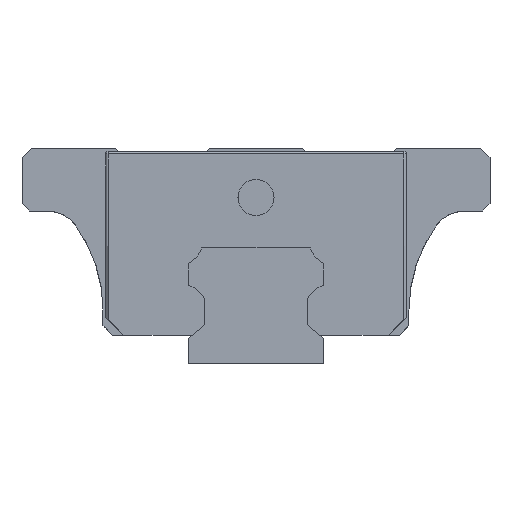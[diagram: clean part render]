
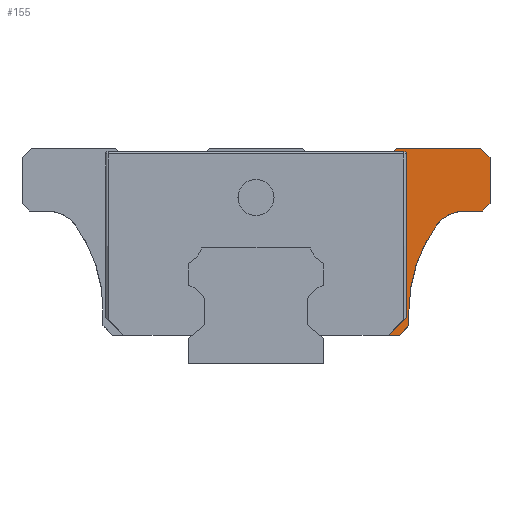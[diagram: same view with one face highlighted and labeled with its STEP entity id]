
A CAD part, left-side view. The second image highlights one B-rep face of the part: STEP entity #155.
In plain terms, the highlighted planar face has unit normal (-1, 0, 0).
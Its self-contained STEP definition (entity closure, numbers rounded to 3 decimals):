
#11 = VECTOR ( 'NONE', #1976, 1000. ) ;
#104 = CARTESIAN_POINT ( 'NONE',  ( -19.75, -17., 6. ) ) ;
#132 = CARTESIAN_POINT ( 'NONE',  ( -19.75, -18.027, 23.595 ) ) ;
#138 = ORIENTED_EDGE ( 'NONE', *, *, #4368, .T. ) ;
#155 = ADVANCED_FACE ( 'NONE', ( #5437 ), #4287, .T. ) ;
#156 = AXIS2_PLACEMENT_3D ( 'NONE', #4454, #1313, #3224 ) ;
#305 = AXIS2_PLACEMENT_3D ( 'NONE', #1905, #1289, #4227 ) ;
#500 = EDGE_CURVE ( 'NONE', #6266, #3368, #8024, .T. ) ;
#609 = ORIENTED_EDGE ( 'NONE', *, *, #7323, .T. ) ;
#718 = VERTEX_POINT ( 'NONE', #2083 ) ;
#742 = CARTESIAN_POINT ( 'NONE',  ( -19.75, -15.26, 23.595 ) ) ;
#753 = DIRECTION ( 'NONE',  ( 0., -0.707, 0.707 ) ) ;
#840 = CARTESIAN_POINT ( 'NONE',  ( -19.75, -26., 17.8 ) ) ;
#962 = VECTOR ( 'NONE', #3244, 1000. ) ;
#1152 = VECTOR ( 'NONE', #3444, 1000. ) ;
#1180 = DIRECTION ( 'NONE',  ( 1., 0., 0. ) ) ;
#1181 = DIRECTION ( 'NONE',  ( 0., -1., 0. ) ) ;
#1243 = EDGE_CURVE ( 'NONE', #7981, #3683, #2284, .T. ) ;
#1289 = DIRECTION ( 'NONE',  ( 1., 0., 0. ) ) ;
#1297 = ORIENTED_EDGE ( 'NONE', *, *, #6461, .T. ) ;
#1313 = DIRECTION ( 'NONE',  ( 1., 0., 0. ) ) ;
#1371 = CARTESIAN_POINT ( 'NONE',  ( -19.75, -16.702, 5.2 ) ) ;
#1414 = ORIENTED_EDGE ( 'NONE', *, *, #1839, .F. ) ;
#1511 = EDGE_CURVE ( 'NONE', #6741, #7244, #7002, .T. ) ;
#1678 = VERTEX_POINT ( 'NONE', #1826 ) ;
#1826 = CARTESIAN_POINT ( 'NONE',  ( -19.75, -15.6, 24. ) ) ;
#1839 = EDGE_CURVE ( 'NONE', #6266, #718, #2597, .T. ) ;
#1905 = CARTESIAN_POINT ( 'NONE',  ( -19.75, -33., 6. ) ) ;
#1906 = LINE ( 'NONE', #4972, #5196 ) ;
#1976 = DIRECTION ( 'NONE',  ( 0., 1., 0. ) ) ;
#1994 = CARTESIAN_POINT ( 'NONE',  ( -19.75, -23.253, 17. ) ) ;
#2083 = CARTESIAN_POINT ( 'NONE',  ( -19.75, -16.702, 5.206 ) ) ;
#2136 = VERTEX_POINT ( 'NONE', #6366 ) ;
#2168 = CARTESIAN_POINT ( 'NONE',  ( -19.75, -26., 17. ) ) ;
#2215 = VERTEX_POINT ( 'NONE', #2905 ) ;
#2265 = ORIENTED_EDGE ( 'NONE', *, *, #5849, .T. ) ;
#2280 = DIRECTION ( 'NONE',  ( 0., 0., 1. ) ) ;
#2284 = LINE ( 'NONE', #4205, #6530 ) ;
#2325 = AXIS2_PLACEMENT_3D ( 'NONE', #5564, #1180, #4277 ) ;
#2597 = LINE ( 'NONE', #5834, #4035 ) ;
#2628 = LINE ( 'NONE', #5166, #4585 ) ;
#2647 = VERTEX_POINT ( 'NONE', #742 ) ;
#2653 = DIRECTION ( 'NONE',  ( 0., -1., 0. ) ) ;
#2681 = EDGE_CURVE ( 'NONE', #2136, #2647, #5672, .T. ) ;
#2774 = ORIENTED_EDGE ( 'NONE', *, *, #1243, .T. ) ;
#2905 = CARTESIAN_POINT ( 'NONE',  ( -19.75, -17., 4.25 ) ) ;
#2966 = VECTOR ( 'NONE', #3942, 1000. ) ;
#3099 = VECTOR ( 'NONE', #4622, 1000. ) ;
#3135 = ORIENTED_EDGE ( 'NONE', *, *, #3843, .T. ) ;
#3224 = DIRECTION ( 'NONE',  ( 0., 0., 1. ) ) ;
#3244 = DIRECTION ( 'NONE',  ( 0., 0., 1. ) ) ;
#3266 = ORIENTED_EDGE ( 'NONE', *, *, #6046, .F. ) ;
#3284 = LINE ( 'NONE', #1371, #962 ) ;
#3368 = VERTEX_POINT ( 'NONE', #7397 ) ;
#3444 = DIRECTION ( 'NONE',  ( 0., -0.707, 0.707 ) ) ;
#3557 = CARTESIAN_POINT ( 'NONE',  ( -19.75, -25.2, 17. ) ) ;
#3562 = VERTEX_POINT ( 'NONE', #840 ) ;
#3683 = VERTEX_POINT ( 'NONE', #7917 ) ;
#3843 = EDGE_CURVE ( 'NONE', #7244, #3562, #2628, .T. ) ;
#3942 = DIRECTION ( 'NONE',  ( 0., 0., 1. ) ) ;
#4035 = VECTOR ( 'NONE', #753, 1000. ) ;
#4140 = ORIENTED_EDGE ( 'NONE', *, *, #7115, .T. ) ;
#4142 = CARTESIAN_POINT ( 'NONE',  ( -19.75, -16.702, 23.335 ) ) ;
#4182 = EDGE_CURVE ( 'NONE', #5450, #6741, #7216, .T. ) ;
#4205 = CARTESIAN_POINT ( 'NONE',  ( -19.75, -24.95, 24. ) ) ;
#4227 = DIRECTION ( 'NONE',  ( 0., 0., 1. ) ) ;
#4236 = DIRECTION ( 'NONE',  ( 0., 1., 0. ) ) ;
#4277 = DIRECTION ( 'NONE',  ( 0., 0., 1. ) ) ;
#4287 = PLANE ( 'NONE',  #7135 ) ;
#4337 = VECTOR ( 'NONE', #4236, 1000. ) ;
#4368 = EDGE_CURVE ( 'NONE', #3683, #1678, #4978, .T. ) ;
#4454 = CARTESIAN_POINT ( 'NONE',  ( -19.75, -23.253, 13. ) ) ;
#4585 = VECTOR ( 'NONE', #5826, 1000. ) ;
#4622 = DIRECTION ( 'NONE',  ( 0., 0., 1. ) ) ;
#4849 = CARTESIAN_POINT ( 'NONE',  ( -19.75, -26., 22.95 ) ) ;
#4972 = CARTESIAN_POINT ( 'NONE',  ( -19.75, -15.6, 24. ) ) ;
#4978 = LINE ( 'NONE', #5562, #4337 ) ;
#5155 = ORIENTED_EDGE ( 'NONE', *, *, #8086, .T. ) ;
#5166 = CARTESIAN_POINT ( 'NONE',  ( -19.75, -26., 17.8 ) ) ;
#5196 = VECTOR ( 'NONE', #6780, 1000. ) ;
#5349 = VECTOR ( 'NONE', #2653, 1000. ) ;
#5408 = CIRCLE ( 'NONE', #305, 16. ) ;
#5437 = FACE_OUTER_BOUND ( 'NONE', #7218, .T. ) ;
#5450 = VERTEX_POINT ( 'NONE', #6747 ) ;
#5562 = CARTESIAN_POINT ( 'NONE',  ( -19.75, -26., 24. ) ) ;
#5564 = CARTESIAN_POINT ( 'NONE',  ( -19.75, -16.442, 23.335 ) ) ;
#5577 = VECTOR ( 'NONE', #1181, 1000. ) ;
#5672 = LINE ( 'NONE', #132, #11 ) ;
#5826 = DIRECTION ( 'NONE',  ( 0., -0.707, 0.707 ) ) ;
#5834 = CARTESIAN_POINT ( 'NONE',  ( -19.75, -14.696, 3.2 ) ) ;
#5849 = EDGE_CURVE ( 'NONE', #7585, #5450, #5408, .T. ) ;
#5903 = ORIENTED_EDGE ( 'NONE', *, *, #1511, .T. ) ;
#6002 = CARTESIAN_POINT ( 'NONE',  ( -19.75, -25.2, 17. ) ) ;
#6003 = CIRCLE ( 'NONE', #2325, 0.26 ) ;
#6046 = EDGE_CURVE ( 'NONE', #718, #6853, #3284, .T. ) ;
#6115 = ORIENTED_EDGE ( 'NONE', *, *, #500, .T. ) ;
#6183 = CARTESIAN_POINT ( 'NONE',  ( -19.75, -8.424, 3.2 ) ) ;
#6189 = CARTESIAN_POINT ( 'NONE',  ( -19.75, -6.587, 3.2 ) ) ;
#6266 = VERTEX_POINT ( 'NONE', #6637 ) ;
#6366 = CARTESIAN_POINT ( 'NONE',  ( -19.75, -16.442, 23.595 ) ) ;
#6376 = ORIENTED_EDGE ( 'NONE', *, *, #4182, .T. ) ;
#6461 = EDGE_CURVE ( 'NONE', #3562, #7981, #7011, .T. ) ;
#6530 = VECTOR ( 'NONE', #7415, 1000. ) ;
#6637 = CARTESIAN_POINT ( 'NONE',  ( -19.75, -14.696, 3.2 ) ) ;
#6741 = VERTEX_POINT ( 'NONE', #1994 ) ;
#6747 = CARTESIAN_POINT ( 'NONE',  ( -19.75, -20.004, 15.333 ) ) ;
#6753 = ORIENTED_EDGE ( 'NONE', *, *, #2681, .F. ) ;
#6780 = DIRECTION ( 'NONE',  ( 0., 0.643, -0.766 ) ) ;
#6853 = VERTEX_POINT ( 'NONE', #4142 ) ;
#6958 = EDGE_CURVE ( 'NONE', #1678, #2647, #1906, .T. ) ;
#7002 = LINE ( 'NONE', #6002, #5349 ) ;
#7011 = LINE ( 'NONE', #2168, #3099 ) ;
#7022 = LINE ( 'NONE', #104, #2966 ) ;
#7115 = EDGE_CURVE ( 'NONE', #2215, #7585, #7022, .T. ) ;
#7135 = AXIS2_PLACEMENT_3D ( 'NONE', #6189, #7984, #2280 ) ;
#7216 = CIRCLE ( 'NONE', #156, 4. ) ;
#7218 = EDGE_LOOP ( 'NONE', ( #3135, #1297, #2774, #138, #7888, #6753, #5155, #3266, #1414, #6115, #609, #4140, #2265, #6376, #5903 ) ) ;
#7244 = VERTEX_POINT ( 'NONE', #3557 ) ;
#7260 = LINE ( 'NONE', #7915, #1152 ) ;
#7323 = EDGE_CURVE ( 'NONE', #3368, #2215, #7260, .T. ) ;
#7397 = CARTESIAN_POINT ( 'NONE',  ( -19.75, -15.95, 3.2 ) ) ;
#7415 = DIRECTION ( 'NONE',  ( 0., 0.707, 0.707 ) ) ;
#7585 = VERTEX_POINT ( 'NONE', #7751 ) ;
#7751 = CARTESIAN_POINT ( 'NONE',  ( -19.75, -17., 6. ) ) ;
#7888 = ORIENTED_EDGE ( 'NONE', *, *, #6958, .T. ) ;
#7915 = CARTESIAN_POINT ( 'NONE',  ( -19.75, -17., 4.25 ) ) ;
#7917 = CARTESIAN_POINT ( 'NONE',  ( -19.75, -24.95, 24. ) ) ;
#7981 = VERTEX_POINT ( 'NONE', #4849 ) ;
#7984 = DIRECTION ( 'NONE',  ( -1., 0., 0. ) ) ;
#8024 = LINE ( 'NONE', #6183, #5577 ) ;
#8086 = EDGE_CURVE ( 'NONE', #2136, #6853, #6003, .T. ) ;
